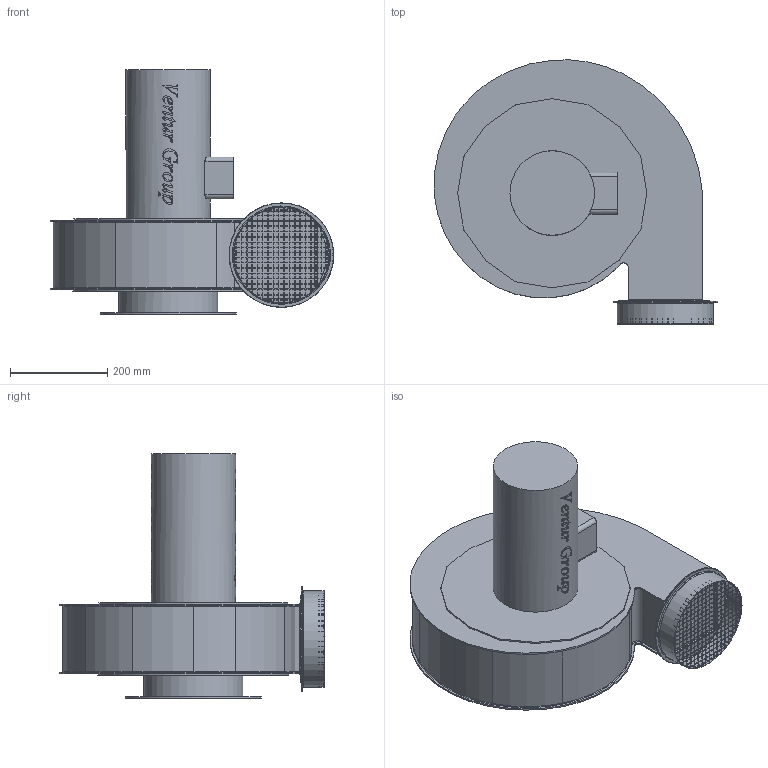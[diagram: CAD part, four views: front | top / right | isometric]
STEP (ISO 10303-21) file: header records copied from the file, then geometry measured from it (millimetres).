
FILE_DESCRIPTION(/* description */ (''),/* implementation_level */ '2;1');
FILE_NAME(/* name */ 'E:\Mariusz\Modele uproszczone\GMT-K\GMT-K_300_220T RD90 43552360\GMT-K_300_220T RD90 43552360.stp',/* time_stamp */ '2018-07-13T16:48:05+02:00',/* author */ ('M.Janczarek'),/* organization */ (''),/* preprocessor_version */ 'ST-DEVELOPER v16.5',/* originating_system */ 'Autodesk Inventor 2017',/* authorisation */ '');
FILE_SCHEMA (('AUTOMOTIVE_DESIGN { 1 0 10303 214 3 1 1 }'));
Length unit declared in the file: millimetre
Products named in the file (1): 2 2868 152 523k
Bounding box: 582.38 x 542.52 x 502.5 mm (x, y, z)
Volume: 39071934.5 mm3; surface area: 1156774.4 mm2
Topology: 1 solids, 1 shells, 1996 faces, 5935 edges, 3906 vertices
Faces by surface type: plane 1353, bspline 427, cylinder 194, torus 22
Full cylindrical faces by diameter (mm): 0.798 x1, 0.838 x1, 0.847 x1, 0.851 x1, 0.858 x1, 0.863 x1, 0.864 x1, 0.871 x1, 0.881 x1, 0.883 x1, 0.884 x1, 0.901 x1, 0.912 x1, 0.925 x1, 0.926 x1, 0.928 x1, 0.931 x1, 0.938 x1, 0.942 x1, 0.943 x1, 0.961 x1, 0.962 x1, 0.973 x2, 0.978 x1, 0.98 x1, 0.981 x1, 0.994 x1, 1 x1, 1.016 x1, 1.019 x1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
Entity records: 75885 total; most frequent: CARTESIAN_POINT 22357, ORIENTED_EDGE 11656, DIRECTION 8896, EDGE_CURVE 5828, LINE 4380, VECTOR 4380, VERTEX_POINT 3868, EDGE_LOOP 2642
